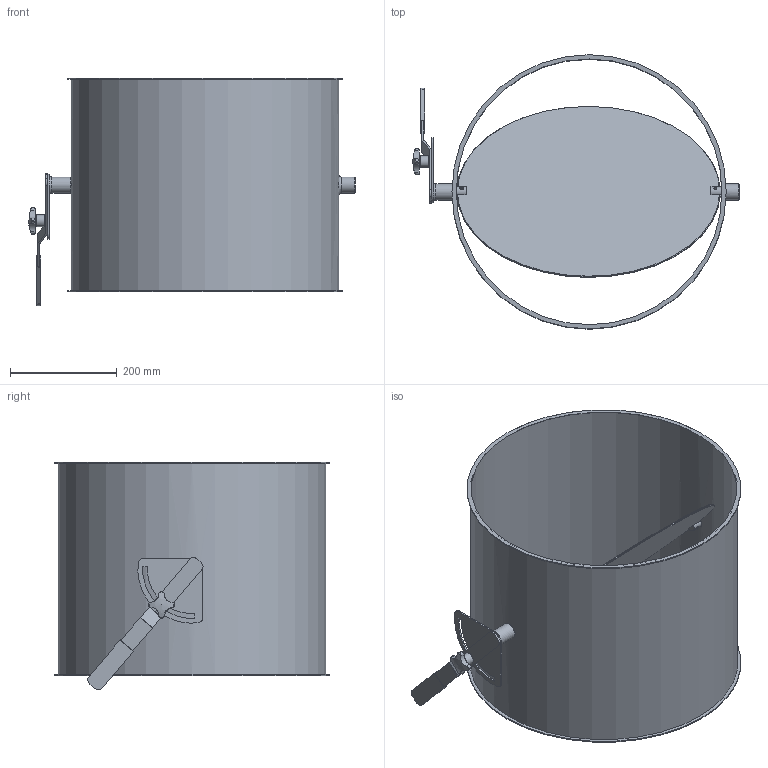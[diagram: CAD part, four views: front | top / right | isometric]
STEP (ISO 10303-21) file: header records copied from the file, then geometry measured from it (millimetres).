
FILE_DESCRIPTION((''),'2;1');
FILE_NAME('U:\Wolfgang\Marcel-3D\fertig\Kapitel 8\5021075.stp','2012-01-13T11:23:25',('iwienholt'),(''),'Autodesk Inventor 2010','Autodesk Inventor 2010','');
FILE_SCHEMA(('AUTOMOTIVE_DESIGN { 1 0 10303 214 1 1 1 1 }'));
Length unit declared in the file: millimetre
Products named in the file (7): 5021075; Bolzen D20; ganter_din_6335-ku-50-m10-k; Griff D20; Scheibe500; Umstellsegment D20; 5021075-1
Assembly tree (6 placements, depth 2):
  5021075
    Bolzen D20
    ganter_din_6335-ku-50-m10-k
    Griff D20
    Scheibe500
    Umstellsegment D20
    5021075-1
Bounding box: 612 x 514 x 426.07 mm (x, y, z)
Volume: 2030001.2 mm3; surface area: 1756870.3 mm2
Topology: 6 solids, 6 shells, 119 faces, 304 edges, 206 vertices
Faces by surface type: plane 51, cylinder 46, torus 9, bspline 7, cone 5, sphere 1
Full cylindrical faces by diameter (mm): 6 x4, 8 x1, 9 x1, 10 x2, 16 x1, 20 x6, 22 x1, 30 x3, 494 x1, 498 x1, 502 x1, 514 x2
Entity records: 4451 total; most frequent: CARTESIAN_POINT 1586, DIRECTION 566, ORIENTED_EDGE 492, EDGE_CURVE 246, AXIS2_PLACEMENT_3D 240, EDGE_LOOP 188, VERTEX_POINT 186, FACE_OUTER_BOUND 119
